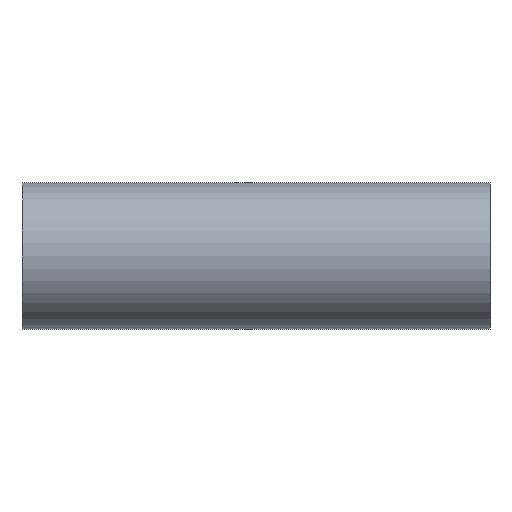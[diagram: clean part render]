
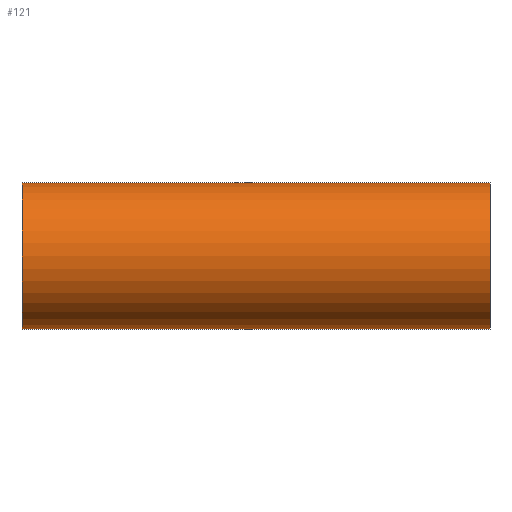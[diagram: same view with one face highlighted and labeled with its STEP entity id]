
A CAD part, front view. The second image highlights one B-rep face of the part: STEP entity #121.
In plain terms, the highlighted cylindrical face has radius 50.8 mm (diameter 101.6 mm), a partial arc.
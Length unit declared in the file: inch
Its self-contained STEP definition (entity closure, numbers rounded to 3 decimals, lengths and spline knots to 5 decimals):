
#39 = CARTESIAN_POINT ( 'NONE',  ( -2.062, 0., -2. ) ) ;
#50 = EDGE_CURVE ( 'NONE', #679, #107, #619, .T. ) ;
#56 = DIRECTION ( 'NONE',  ( 0., 0., -1. ) ) ;
#91 = CARTESIAN_POINT ( 'NONE',  ( -2.062, 0., 0. ) ) ;
#93 = DIRECTION ( 'NONE',  ( 1., 0., 0. ) ) ;
#99 = EDGE_CURVE ( 'NONE', #107, #588, #515, .T. ) ;
#107 = VERTEX_POINT ( 'NONE', #346 ) ;
#121 = ADVANCED_FACE ( 'NONE', ( #349 ), #656, .T. ) ;
#137 = AXIS2_PLACEMENT_3D ( 'NONE', #486, #591, #56 ) ;
#149 = CARTESIAN_POINT ( 'NONE',  ( -2.062, 0., 2. ) ) ;
#177 = AXIS2_PLACEMENT_3D ( 'NONE', #91, #561, #180 ) ;
#180 = DIRECTION ( 'NONE',  ( 0., 0., -1. ) ) ;
#214 = ORIENTED_EDGE ( 'NONE', *, *, #50, .T. ) ;
#242 = DIRECTION ( 'NONE',  ( 1., 0., 0. ) ) ;
#252 = ORIENTED_EDGE ( 'NONE', *, *, #586, .F. ) ;
#287 = CARTESIAN_POINT ( 'NONE',  ( 10.75, 0., -2. ) ) ;
#314 = ORIENTED_EDGE ( 'NONE', *, *, #445, .F. ) ;
#344 = CARTESIAN_POINT ( 'NONE',  ( 10.75, 0., 0. ) ) ;
#346 = CARTESIAN_POINT ( 'NONE',  ( -2.062, 0., -2. ) ) ;
#349 = FACE_OUTER_BOUND ( 'NONE', #430, .T. ) ;
#366 = ORIENTED_EDGE ( 'NONE', *, *, #99, .T. ) ;
#382 = CARTESIAN_POINT ( 'NONE',  ( 10.75, 0., 2. ) ) ;
#389 = DIRECTION ( 'NONE',  ( 0., 0., -1. ) ) ;
#430 = EDGE_LOOP ( 'NONE', ( #314, #214, #366, #252 ) ) ;
#445 = EDGE_CURVE ( 'NONE', #679, #623, #572, .T. ) ;
#449 = AXIS2_PLACEMENT_3D ( 'NONE', #344, #597, #389 ) ;
#474 = VECTOR ( 'NONE', #93, 39.37008 ) ;
#486 = CARTESIAN_POINT ( 'NONE',  ( -2.062, 0., 0. ) ) ;
#515 = LINE ( 'NONE', #39, #529 ) ;
#529 = VECTOR ( 'NONE', #242, 39.37008 ) ;
#552 = CIRCLE ( 'NONE', #449, 2. ) ;
#558 = CARTESIAN_POINT ( 'NONE',  ( -2.062, 0., 2. ) ) ;
#561 = DIRECTION ( 'NONE',  ( 1., 0., 0. ) ) ;
#572 = LINE ( 'NONE', #149, #474 ) ;
#586 = EDGE_CURVE ( 'NONE', #623, #588, #552, .T. ) ;
#588 = VERTEX_POINT ( 'NONE', #287 ) ;
#591 = DIRECTION ( 'NONE',  ( 1., 0., 0. ) ) ;
#597 = DIRECTION ( 'NONE',  ( 1., 0., 0. ) ) ;
#619 = CIRCLE ( 'NONE', #137, 2. ) ;
#623 = VERTEX_POINT ( 'NONE', #382 ) ;
#656 = CYLINDRICAL_SURFACE ( 'NONE', #177, 2. ) ;
#679 = VERTEX_POINT ( 'NONE', #558 ) ;
